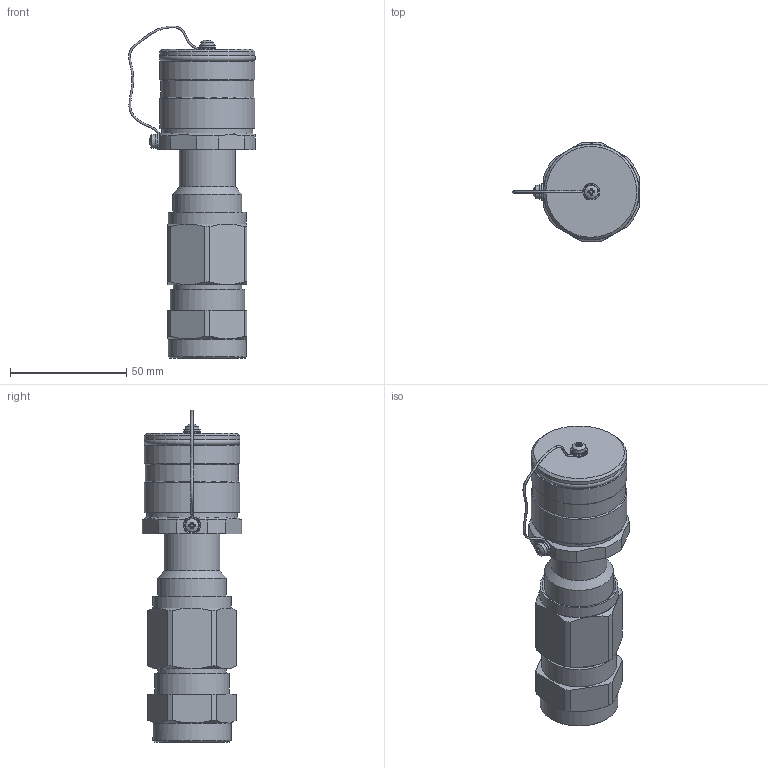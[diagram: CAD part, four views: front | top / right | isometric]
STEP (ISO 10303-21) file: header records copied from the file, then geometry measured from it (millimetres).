
FILE_DESCRIPTION (( 'STEP AP203' ), '1' );
FILE_NAME ('ﾐﾃﾌﾊ-24DC-7-ﾎ.STEP', '2021-11-16T08:27:58', ( '' ), ( '' ), 'SwSTEP 2.0', 'SolidWorks 2018', '' );
FILE_SCHEMA (( 'CONFIG_CONTROL_DESIGN' ));
Length unit declared in the file: millimetre
Products named in the file (1): ﾐﾃﾌﾊ-24DC-7-ﾎ
Bounding box: 54.34 x 42.89 x 142.53 mm (x, y, z)
Volume: 124673.8 mm3; surface area: 22003.1 mm2
Topology: 1 solids, 1 shells, 210 faces, 517 edges, 330 vertices
Faces by surface type: plane 97, cylinder 54, cone 53, torus 3, sphere 2, bspline 1
Full cylindrical faces by diameter (mm): 2.75 x2, 3 x2, 3.2 x2, 3.5 x2, 7 x3, 24 x1, 25 x1, 29.4 x1, 29.5 x1, 29.835 x1, 32 x1, 33.5 x2, 36 x1, 39 x1, 39.8 x1, 40 x1, 41 x3
Entity records: 6343 total; most frequent: CARTESIAN_POINT 1649, DIRECTION 985, ORIENTED_EDGE 910, EDGE_CURVE 455, AXIS2_PLACEMENT_3D 410, VERTEX_POINT 315, EDGE_LOOP 282, FACE_OUTER_BOUND 241
